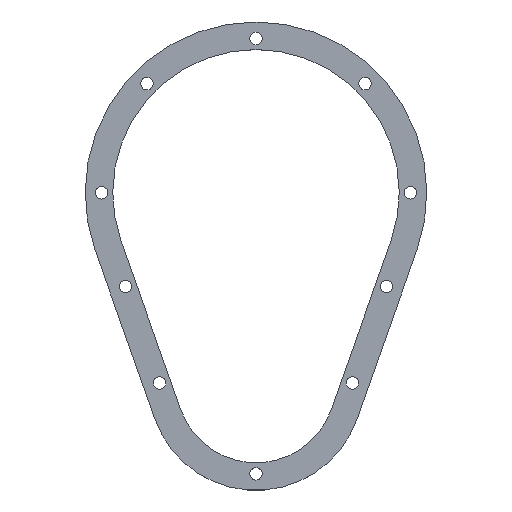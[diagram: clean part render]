
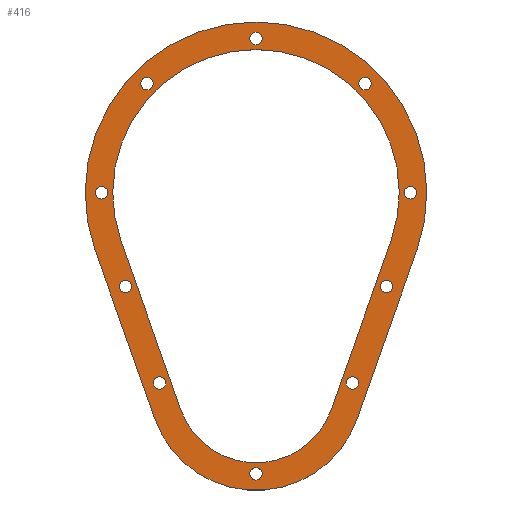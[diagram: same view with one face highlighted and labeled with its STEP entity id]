
A CAD part, top view. The second image highlights one B-rep face of the part: STEP entity #416.
In plain terms, the highlighted planar face has unit normal (0, 0, 1).
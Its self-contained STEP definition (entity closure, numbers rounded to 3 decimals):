
#26=FACE_BOUND('',#94,.T.);
#27=FACE_BOUND('',#95,.T.);
#28=FACE_BOUND('',#96,.T.);
#29=FACE_BOUND('',#97,.T.);
#30=FACE_BOUND('',#98,.T.);
#31=FACE_BOUND('',#99,.T.);
#32=FACE_BOUND('',#100,.T.);
#33=FACE_BOUND('',#101,.T.);
#34=FACE_BOUND('',#102,.T.);
#35=FACE_BOUND('',#103,.T.);
#36=FACE_BOUND('',#104,.T.);
#42=PLANE('',#487);
#62=FACE_OUTER_BOUND('',#93,.T.);
#93=EDGE_LOOP('',(#365,#366,#367,#368));
#94=EDGE_LOOP('',(#369));
#95=EDGE_LOOP('',(#370));
#96=EDGE_LOOP('',(#371));
#97=EDGE_LOOP('',(#372));
#98=EDGE_LOOP('',(#373));
#99=EDGE_LOOP('',(#374));
#100=EDGE_LOOP('',(#375));
#101=EDGE_LOOP('',(#376));
#102=EDGE_LOOP('',(#377));
#103=EDGE_LOOP('',(#378));
#104=EDGE_LOOP('',(#379,#380,#381,#382));
#117=LINE('',#680,#143);
#121=LINE('',#692,#147);
#125=LINE('',#704,#151);
#129=LINE('',#716,#155);
#143=VECTOR('',#564,10.);
#147=VECTOR('',#576,10.);
#151=VECTOR('',#588,10.);
#155=VECTOR('',#600,10.);
#157=CIRCLE('',#441,2.25);
#159=CIRCLE('',#444,2.25);
#161=CIRCLE('',#447,2.25);
#163=CIRCLE('',#450,2.25);
#165=CIRCLE('',#453,2.25);
#167=CIRCLE('',#456,2.25);
#169=CIRCLE('',#459,2.25);
#171=CIRCLE('',#462,2.25);
#173=CIRCLE('',#465,2.25);
#175=CIRCLE('',#468,2.25);
#178=CIRCLE('',#473,52.);
#180=CIRCLE('',#477,29.);
#182=CIRCLE('',#481,39.);
#184=CIRCLE('',#485,62.);
#185=VERTEX_POINT('',#614);
#187=VERTEX_POINT('',#620);
#189=VERTEX_POINT('',#626);
#191=VERTEX_POINT('',#632);
#193=VERTEX_POINT('',#638);
#195=VERTEX_POINT('',#644);
#197=VERTEX_POINT('',#650);
#199=VERTEX_POINT('',#656);
#201=VERTEX_POINT('',#662);
#203=VERTEX_POINT('',#668);
#207=VERTEX_POINT('',#677);
#208=VERTEX_POINT('',#679);
#210=VERTEX_POINT('',#685);
#212=VERTEX_POINT('',#691);
#215=VERTEX_POINT('',#701);
#216=VERTEX_POINT('',#703);
#218=VERTEX_POINT('',#709);
#220=VERTEX_POINT('',#715);
#221=EDGE_CURVE('',#185,#185,#157,.T.);
#224=EDGE_CURVE('',#187,#187,#159,.T.);
#227=EDGE_CURVE('',#189,#189,#161,.T.);
#230=EDGE_CURVE('',#191,#191,#163,.T.);
#233=EDGE_CURVE('',#193,#193,#165,.T.);
#236=EDGE_CURVE('',#195,#195,#167,.T.);
#239=EDGE_CURVE('',#197,#197,#169,.T.);
#242=EDGE_CURVE('',#199,#199,#171,.T.);
#245=EDGE_CURVE('',#201,#201,#173,.T.);
#248=EDGE_CURVE('',#203,#203,#175,.T.);
#253=EDGE_CURVE('',#208,#207,#117,.T.);
#256=EDGE_CURVE('',#210,#208,#178,.T.);
#259=EDGE_CURVE('',#212,#210,#121,.T.);
#262=EDGE_CURVE('',#207,#212,#180,.T.);
#265=EDGE_CURVE('',#216,#215,#125,.T.);
#268=EDGE_CURVE('',#218,#216,#182,.T.);
#271=EDGE_CURVE('',#220,#218,#129,.T.);
#274=EDGE_CURVE('',#215,#220,#184,.T.);
#365=ORIENTED_EDGE('',*,*,#274,.T.);
#366=ORIENTED_EDGE('',*,*,#271,.T.);
#367=ORIENTED_EDGE('',*,*,#268,.T.);
#368=ORIENTED_EDGE('',*,*,#265,.T.);
#369=ORIENTED_EDGE('',*,*,#221,.T.);
#370=ORIENTED_EDGE('',*,*,#224,.T.);
#371=ORIENTED_EDGE('',*,*,#227,.T.);
#372=ORIENTED_EDGE('',*,*,#230,.T.);
#373=ORIENTED_EDGE('',*,*,#233,.T.);
#374=ORIENTED_EDGE('',*,*,#236,.T.);
#375=ORIENTED_EDGE('',*,*,#239,.T.);
#376=ORIENTED_EDGE('',*,*,#242,.T.);
#377=ORIENTED_EDGE('',*,*,#245,.T.);
#378=ORIENTED_EDGE('',*,*,#248,.T.);
#379=ORIENTED_EDGE('',*,*,#259,.T.);
#380=ORIENTED_EDGE('',*,*,#256,.T.);
#381=ORIENTED_EDGE('',*,*,#253,.T.);
#382=ORIENTED_EDGE('',*,*,#262,.T.);
#416=ADVANCED_FACE('',(#62,#26,#27,#28,#29,#30,#31,#32,#33,#34,#35,#36),
#42,.T.);
#441=AXIS2_PLACEMENT_3D('',#615,#492,#493);
#444=AXIS2_PLACEMENT_3D('',#621,#499,#500);
#447=AXIS2_PLACEMENT_3D('',#627,#506,#507);
#450=AXIS2_PLACEMENT_3D('',#633,#513,#514);
#453=AXIS2_PLACEMENT_3D('',#639,#520,#521);
#456=AXIS2_PLACEMENT_3D('',#645,#527,#528);
#459=AXIS2_PLACEMENT_3D('',#651,#534,#535);
#462=AXIS2_PLACEMENT_3D('',#657,#541,#542);
#465=AXIS2_PLACEMENT_3D('',#663,#548,#549);
#468=AXIS2_PLACEMENT_3D('',#669,#555,#556);
#473=AXIS2_PLACEMENT_3D('',#686,#570,#571);
#477=AXIS2_PLACEMENT_3D('',#696,#582,#583);
#481=AXIS2_PLACEMENT_3D('',#710,#594,#595);
#485=AXIS2_PLACEMENT_3D('',#720,#606,#607);
#487=AXIS2_PLACEMENT_3D('',#722,#610,#611);
#492=DIRECTION('center_axis',(0.,0.,-1.));
#493=DIRECTION('ref_axis',(1.,0.,0.));
#499=DIRECTION('center_axis',(0.,0.,-1.));
#500=DIRECTION('ref_axis',(1.,0.,0.));
#506=DIRECTION('center_axis',(0.,0.,-1.));
#507=DIRECTION('ref_axis',(1.,0.,0.));
#513=DIRECTION('center_axis',(0.,0.,-1.));
#514=DIRECTION('ref_axis',(1.,0.,0.));
#520=DIRECTION('center_axis',(0.,0.,-1.));
#521=DIRECTION('ref_axis',(1.,0.,0.));
#527=DIRECTION('center_axis',(0.,0.,-1.));
#528=DIRECTION('ref_axis',(1.,0.,0.));
#534=DIRECTION('center_axis',(0.,0.,-1.));
#535=DIRECTION('ref_axis',(1.,0.,0.));
#541=DIRECTION('center_axis',(0.,0.,-1.));
#542=DIRECTION('ref_axis',(1.,0.,0.));
#548=DIRECTION('center_axis',(0.,0.,-1.));
#549=DIRECTION('ref_axis',(1.,0.,0.));
#555=DIRECTION('center_axis',(0.,0.,-1.));
#556=DIRECTION('ref_axis',(1.,0.,0.));
#564=DIRECTION('',(-0.333,-0.943,0.));
#570=DIRECTION('center_axis',(0.,0.,-1.));
#571=DIRECTION('ref_axis',(-0.943,0.333,0.));
#576=DIRECTION('',(-0.333,0.943,0.));
#582=DIRECTION('center_axis',(0.,0.,-1.));
#583=DIRECTION('ref_axis',(0.943,0.333,0.));
#588=DIRECTION('',(0.333,0.943,0.));
#594=DIRECTION('center_axis',(0.,0.,1.));
#595=DIRECTION('ref_axis',(0.943,0.333,0.));
#600=DIRECTION('',(0.333,-0.943,0.));
#606=DIRECTION('center_axis',(0.,0.,1.));
#607=DIRECTION('ref_axis',(-0.943,0.333,0.));
#610=DIRECTION('center_axis',(0.,0.,1.));
#611=DIRECTION('ref_axis',(1.,0.,0.));
#614=CARTESIAN_POINT('',(-41.848,39.598,1.));
#615=CARTESIAN_POINT('Origin',(-39.598,39.598,1.));
#620=CARTESIAN_POINT('',(-58.25,0.,1.));
#621=CARTESIAN_POINT('Origin',(-56.,0.,1.));
#626=CARTESIAN_POINT('',(-49.626,-34.,1.));
#627=CARTESIAN_POINT('Origin',(-47.376,-34.,1.));
#632=CARTESIAN_POINT('',(-37.252,-69.,1.));
#633=CARTESIAN_POINT('Origin',(-35.002,-69.,1.));
#638=CARTESIAN_POINT('',(-2.25,-102.,1.));
#639=CARTESIAN_POINT('Origin',(0.,-102.,1.));
#644=CARTESIAN_POINT('',(32.752,-69.,1.));
#645=CARTESIAN_POINT('Origin',(35.002,-69.,1.));
#650=CARTESIAN_POINT('',(45.126,-34.,1.));
#651=CARTESIAN_POINT('Origin',(47.376,-34.,1.));
#656=CARTESIAN_POINT('',(53.75,0.,1.));
#657=CARTESIAN_POINT('Origin',(56.,0.,1.));
#662=CARTESIAN_POINT('',(37.348,39.598,1.));
#663=CARTESIAN_POINT('Origin',(39.598,39.598,1.));
#668=CARTESIAN_POINT('',(-2.25,56.,1.));
#669=CARTESIAN_POINT('Origin',(0.,56.,1.));
#677=CARTESIAN_POINT('',(27.341,-78.667,1.));
#679=CARTESIAN_POINT('',(49.026,-17.333,1.));
#680=CARTESIAN_POINT('',(45.566,-27.119,1.));
#685=CARTESIAN_POINT('',(-49.026,-17.333,1.));
#686=CARTESIAN_POINT('Origin',(0.,0.,1.));
#691=CARTESIAN_POINT('',(-27.341,-78.667,1.));
#692=CARTESIAN_POINT('',(-34.724,-57.786,1.));
#696=CARTESIAN_POINT('Origin',(0.,-69.,1.));
#701=CARTESIAN_POINT('',(58.454,-20.667,1.));
#703=CARTESIAN_POINT('',(36.77,-82.,1.));
#704=CARTESIAN_POINT('',(58.454,-20.667,1.));
#709=CARTESIAN_POINT('',(-36.77,-82.,1.));
#710=CARTESIAN_POINT('Origin',(0.,-69.,1.));
#715=CARTESIAN_POINT('',(-58.454,-20.667,1.));
#716=CARTESIAN_POINT('',(-36.77,-82.,1.));
#720=CARTESIAN_POINT('Origin',(0.,0.,1.));
#722=CARTESIAN_POINT('Origin',(0.,-22.017,1.));
